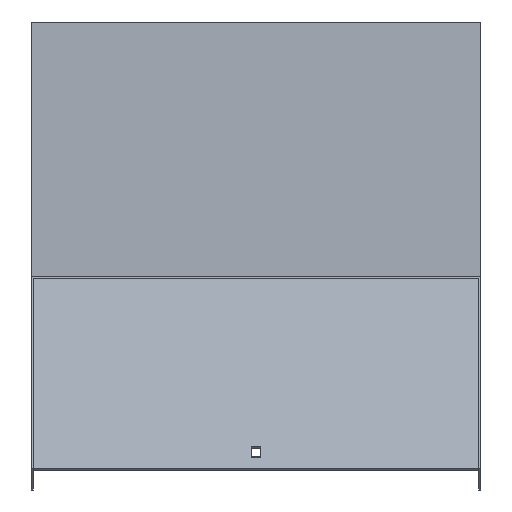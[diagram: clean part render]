
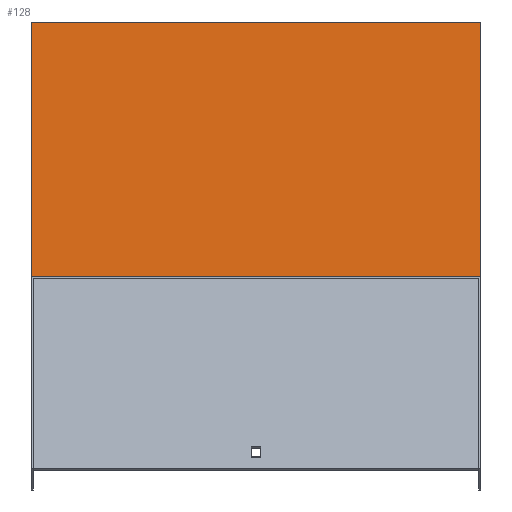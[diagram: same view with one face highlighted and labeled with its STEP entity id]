
A CAD part, top view. The second image highlights one B-rep face of the part: STEP entity #128.
In plain terms, the highlighted planar face has unit normal (0, 0.924, 0.383).
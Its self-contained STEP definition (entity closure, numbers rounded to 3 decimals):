
#9 = LINE ( 'NONE', #529, #70 ) ;
#38 = VERTEX_POINT ( 'NONE', #419 ) ;
#70 = VECTOR ( 'NONE', #274, 1000. ) ;
#83 = ORIENTED_EDGE ( 'NONE', *, *, #719, .T. ) ;
#85 = CARTESIAN_POINT ( 'NONE',  ( -151.5, 18.478, 187.654 ) ) ;
#96 = ORIENTED_EDGE ( 'NONE', *, *, #250, .F. ) ;
#97 = FACE_OUTER_BOUND ( 'NONE', #348, .T. ) ;
#99 = PLANE ( 'NONE',  #692 ) ;
#128 = ADVANCED_FACE ( 'NONE', ( #97 ), #99, .F. ) ;
#176 = DIRECTION ( 'NONE',  ( -1., 0., 0. ) ) ;
#207 = ORIENTED_EDGE ( 'NONE', *, *, #524, .T. ) ;
#217 = VERTEX_POINT ( 'NONE', #632 ) ;
#250 = EDGE_CURVE ( 'NONE', #217, #497, #585, .T. ) ;
#274 = DIRECTION ( 'NONE',  ( 0., -0.383, 0.924 ) ) ;
#286 = ORIENTED_EDGE ( 'NONE', *, *, #429, .F. ) ;
#348 = EDGE_LOOP ( 'NONE', ( #83, #96, #286, #207 ) ) ;
#367 = DIRECTION ( 'NONE',  ( 0., -0.924, -0.383 ) ) ;
#419 = CARTESIAN_POINT ( 'NONE',  ( 151.5, 20., 183.978 ) ) ;
#429 = EDGE_CURVE ( 'NONE', #38, #217, #9, .T. ) ;
#466 = DIRECTION ( 'NONE',  ( -1., 0., 0. ) ) ;
#497 = VERTEX_POINT ( 'NONE', #761 ) ;
#524 = EDGE_CURVE ( 'NONE', #38, #757, #587, .T. ) ;
#527 = VECTOR ( 'NONE', #466, 1000. ) ;
#529 = CARTESIAN_POINT ( 'NONE',  ( 151.5, 18.478, 187.654 ) ) ;
#584 = CARTESIAN_POINT ( 'NONE',  ( 151.5, 20., 183.978 ) ) ;
#585 = LINE ( 'NONE', #834, #851 ) ;
#587 = LINE ( 'NONE', #584, #527 ) ;
#632 = CARTESIAN_POINT ( 'NONE',  ( 151.5, -152.191, 599.684 ) ) ;
#692 = AXIS2_PLACEMENT_3D ( 'NONE', #819, #367, #743 ) ;
#719 = EDGE_CURVE ( 'NONE', #757, #497, #821, .T. ) ;
#741 = CARTESIAN_POINT ( 'NONE',  ( -151.5, 20., 183.978 ) ) ;
#743 = DIRECTION ( 'NONE',  ( 0., 0.383, -0.924 ) ) ;
#751 = DIRECTION ( 'NONE',  ( 0., -0.383, 0.924 ) ) ;
#757 = VERTEX_POINT ( 'NONE', #741 ) ;
#761 = CARTESIAN_POINT ( 'NONE',  ( -151.5, -152.191, 599.684 ) ) ;
#778 = VECTOR ( 'NONE', #751, 1000. ) ;
#819 = CARTESIAN_POINT ( 'NONE',  ( 151.5, 18.478, 187.654 ) ) ;
#821 = LINE ( 'NONE', #85, #778 ) ;
#834 = CARTESIAN_POINT ( 'NONE',  ( 151.5, -152.191, 599.684 ) ) ;
#851 = VECTOR ( 'NONE', #176, 1000. ) ;
